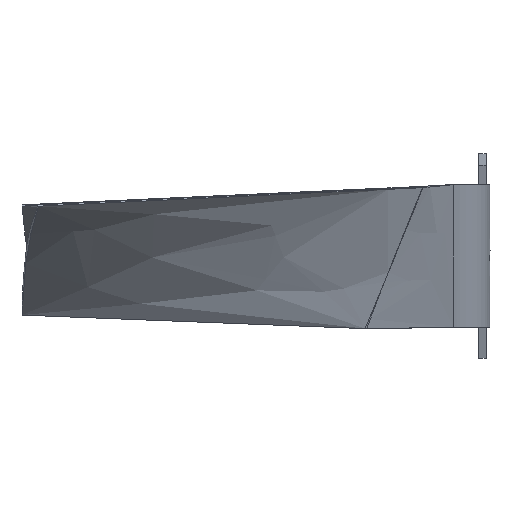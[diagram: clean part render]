
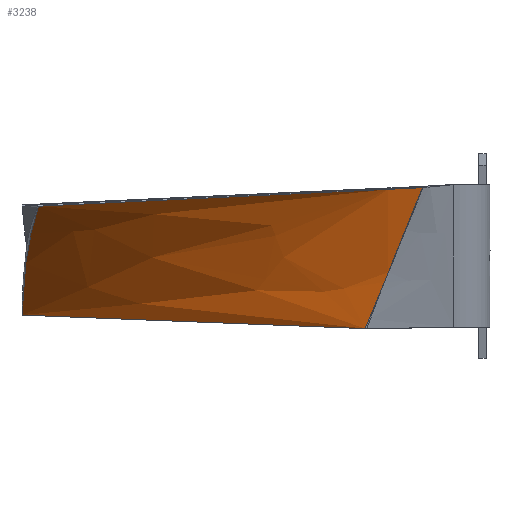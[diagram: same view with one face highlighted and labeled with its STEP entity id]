
A CAD part, left-side view. The second image highlights one B-rep face of the part: STEP entity #3238.
In plain terms, the highlighted free-form (B-spline) face has degree [3, 3] with [7, 4] control points.
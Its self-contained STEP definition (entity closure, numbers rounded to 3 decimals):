
#2422=CARTESIAN_POINT('Vertex',(-41.52,194.62,6.645)) ;
#2426=CARTESIAN_POINT('Control Point',(-19.864,102.701,11.088)) ;
#2427=CARTESIAN_POINT('Control Point',(-22.589,114.27,10.528)) ;
#2428=CARTESIAN_POINT('Control Point',(-25.314,125.84,9.968)) ;
#2429=CARTESIAN_POINT('Control Point',(-31.373,151.552,8.726)) ;
#2430=CARTESIAN_POINT('Control Point',(-34.611,165.296,8.062)) ;
#2431=CARTESIAN_POINT('Control Point',(-37.849,179.04,7.397)) ;
#2432=CARTESIAN_POINT('Control Point',(-39.588,186.423,7.04)) ;
#2433=CARTESIAN_POINT('Control Point',(-40.238,189.185,6.906)) ;
#2434=CARTESIAN_POINT('Control Point',(-40.889,191.947,6.773)) ;
#2435=CARTESIAN_POINT('Control Point',(-41.241,193.446,6.7)) ;
#2436=CARTESIAN_POINT('Control Point',(-41.381,194.033,6.672)) ;
#2437=CARTESIAN_POINT('Control Point',(-41.521,194.62,6.645)) ;
#2438=CARTESIAN_POINT('Vertex',(-19.864,102.701,11.087)) ;
#2442=CARTESIAN_POINT('Control Point',(-17.72,93.635,11.51)) ;
#2443=CARTESIAN_POINT('Control Point',(-17.868,94.261,11.483)) ;
#2444=CARTESIAN_POINT('Control Point',(-18.017,94.886,11.457)) ;
#2445=CARTESIAN_POINT('Control Point',(-18.198,95.635,11.428)) ;
#2446=CARTESIAN_POINT('Control Point',(-18.582,97.261,11.352)) ;
#2447=CARTESIAN_POINT('Control Point',(-18.964,98.887,11.272)) ;
#2448=CARTESIAN_POINT('Control Point',(-19.142,99.637,11.236)) ;
#2449=CARTESIAN_POINT('Control Point',(-19.374,100.625,11.188)) ;
#2450=CARTESIAN_POINT('Control Point',(-19.607,101.613,11.14)) ;
#2451=CARTESIAN_POINT('Control Point',(-19.693,101.976,11.123)) ;
#2452=CARTESIAN_POINT('Control Point',(-19.778,102.338,11.105)) ;
#2453=CARTESIAN_POINT('Control Point',(-19.864,102.701,11.088)) ;
#2454=CARTESIAN_POINT('Vertex',(-17.72,93.635,11.51)) ;
#2525=CARTESIAN_POINT('Vertex',(-9.5,102.637,-10.704)) ;
#2529=CARTESIAN_POINT('Control Point',(-8.672,103.691,-13.336)) ;
#2530=CARTESIAN_POINT('Control Point',(-8.947,103.336,-12.449)) ;
#2531=CARTESIAN_POINT('Control Point',(-9.222,102.986,-11.573)) ;
#2532=CARTESIAN_POINT('Control Point',(-9.5,102.637,-10.704)) ;
#2533=CARTESIAN_POINT('Vertex',(-8.672,103.69,-13.336)) ;
#3040=CARTESIAN_POINT('Control Point',(-8.672,103.69,-13.336)) ;
#3041=CARTESIAN_POINT('Control Point',(-8.675,103.708,-13.331)) ;
#3042=CARTESIAN_POINT('Control Point',(-8.679,103.725,-13.325)) ;
#3043=CARTESIAN_POINT('Vertex',(-8.679,103.725,-13.325)) ;
#3047=CARTESIAN_POINT('Control Point',(-5.137,108.735,-25.55)) ;
#3048=CARTESIAN_POINT('Control Point',(-6.252,107.055,-21.456)) ;
#3049=CARTESIAN_POINT('Control Point',(-7.423,105.374,-17.381)) ;
#3050=CARTESIAN_POINT('Control Point',(-8.679,103.725,-13.325)) ;
#3051=CARTESIAN_POINT('Vertex',(-5.137,108.735,-25.55)) ;
#3129=CARTESIAN_POINT('Control Point',(-5.137,108.735,-25.55)) ;
#3130=CARTESIAN_POINT('Control Point',(-5.043,115.953,-25.265)) ;
#3131=CARTESIAN_POINT('Control Point',(-4.949,123.171,-24.981)) ;
#3132=CARTESIAN_POINT('Control Point',(-4.855,130.389,-24.697)) ;
#3133=CARTESIAN_POINT('Control Point',(-4.667,144.825,-24.128)) ;
#3134=CARTESIAN_POINT('Control Point',(-4.479,159.261,-23.559)) ;
#3135=CARTESIAN_POINT('Control Point',(-4.385,166.479,-23.274)) ;
#3136=CARTESIAN_POINT('Control Point',(-4.244,177.306,-22.848)) ;
#3137=CARTESIAN_POINT('Control Point',(-4.102,188.133,-22.422)) ;
#3138=CARTESIAN_POINT('Control Point',(-4.053,191.743,-22.281)) ;
#3139=CARTESIAN_POINT('Control Point',(-4.011,195.351,-22.135)) ;
#3140=CARTESIAN_POINT('Control Point',(-3.963,198.961,-21.994)) ;
#3141=CARTESIAN_POINT('Vertex',(-3.962,198.961,-21.994)) ;
#3167=CARTESIAN_POINT('Control Point',(-3.962,198.961,-21.994)) ;
#3168=CARTESIAN_POINT('Control Point',(-12.697,198.787,-13.932)) ;
#3169=CARTESIAN_POINT('Control Point',(-22.027,198.089,-6.544)) ;
#3170=CARTESIAN_POINT('Control Point',(-31.705,196.714,0.273)) ;
#3171=CARTESIAN_POINT('Control Point',(-41.52,194.62,6.645)) ;
#3183=CARTESIAN_POINT('Control Point',(-17.716,92.752,11.937)) ;
#3184=CARTESIAN_POINT('Control Point',(-25.838,126.882,10.253)) ;
#3185=CARTESIAN_POINT('Control Point',(-33.959,161.011,8.569)) ;
#3186=CARTESIAN_POINT('Control Point',(-42.081,195.141,6.884)) ;
#3187=CARTESIAN_POINT('Control Point',(-17.654,92.768,11.814)) ;
#3188=CARTESIAN_POINT('Control Point',(-25.75,126.903,10.141)) ;
#3189=CARTESIAN_POINT('Control Point',(-33.846,161.039,8.467)) ;
#3190=CARTESIAN_POINT('Control Point',(-41.943,195.175,6.794)) ;
#3191=CARTESIAN_POINT('Control Point',(-14.646,93.509,5.799)) ;
#3192=CARTESIAN_POINT('Control Point',(-21.502,127.95,4.671)) ;
#3193=CARTESIAN_POINT('Control Point',(-28.358,162.392,3.542)) ;
#3194=CARTESIAN_POINT('Control Point',(-35.213,196.833,2.414)) ;
#3195=CARTESIAN_POINT('Control Point',(-9.581,94.757,-6.589)) ;
#3196=CARTESIAN_POINT('Control Point',(-13.779,129.854,-6.632)) ;
#3197=CARTESIAN_POINT('Control Point',(-17.978,164.95,-6.676)) ;
#3198=CARTESIAN_POINT('Control Point',(-22.176,200.047,-6.72)) ;
#3199=CARTESIAN_POINT('Control Point',(-6.378,95.547,-19.643)) ;
#3200=CARTESIAN_POINT('Control Point',(-7.5,131.401,-18.67)) ;
#3201=CARTESIAN_POINT('Control Point',(-8.623,167.256,-17.697)) ;
#3202=CARTESIAN_POINT('Control Point',(-9.746,203.111,-16.723)) ;
#3203=CARTESIAN_POINT('Control Point',(-5.259,95.823,-26.334)) ;
#3204=CARTESIAN_POINT('Control Point',(-4.719,132.087,-24.887)) ;
#3205=CARTESIAN_POINT('Control Point',(-4.178,168.352,-23.439)) ;
#3206=CARTESIAN_POINT('Control Point',(-3.637,204.616,-21.991)) ;
#3207=CARTESIAN_POINT('Control Point',(-5.237,95.828,-26.472)) ;
#3208=CARTESIAN_POINT('Control Point',(-4.662,132.101,-25.015)) ;
#3209=CARTESIAN_POINT('Control Point',(-4.087,168.374,-23.557)) ;
#3210=CARTESIAN_POINT('Control Point',(-3.512,204.647,-22.099)) ;
#3212=CARTESIAN_POINT('Control Point',(-9.5,102.637,-10.704)) ;
#3213=CARTESIAN_POINT('Control Point',(-9.588,102.536,-10.431)) ;
#3214=CARTESIAN_POINT('Control Point',(-9.676,102.432,-10.158)) ;
#3215=CARTESIAN_POINT('Control Point',(-9.764,102.328,-9.886)) ;
#3216=CARTESIAN_POINT('Control Point',(-10.117,101.911,-8.802)) ;
#3217=CARTESIAN_POINT('Control Point',(-10.475,101.492,-7.72)) ;
#3218=CARTESIAN_POINT('Control Point',(-10.745,101.176,-6.911)) ;
#3219=CARTESIAN_POINT('Control Point',(-11.384,100.434,-5.025)) ;
#3220=CARTESIAN_POINT('Control Point',(-12.039,99.687,-3.148)) ;
#3221=CARTESIAN_POINT('Control Point',(-12.419,99.258,-2.076)) ;
#3222=CARTESIAN_POINT('Control Point',(-13.643,97.892,1.316)) ;
#3223=CARTESIAN_POINT('Control Point',(-14.927,96.524,4.685)) ;
#3224=CARTESIAN_POINT('Control Point',(-15.833,95.578,6.978)) ;
#3225=CARTESIAN_POINT('Control Point',(-16.766,94.618,9.254)) ;
#3226=CARTESIAN_POINT('Control Point',(-17.72,93.635,11.51)) ;
#3229=ORIENTED_EDGE('',*,*,#3143,.F.) ;
#3230=ORIENTED_EDGE('',*,*,#3053,.T.) ;
#3231=ORIENTED_EDGE('',*,*,#3045,.T.) ;
#3232=ORIENTED_EDGE('',*,*,#2535,.T.) ;
#3233=ORIENTED_EDGE('',*,*,#3227,.T.) ;
#3234=ORIENTED_EDGE('',*,*,#2456,.T.) ;
#3235=ORIENTED_EDGE('',*,*,#2440,.T.) ;
#3236=ORIENTED_EDGE('',*,*,#3172,.F.) ;
#3238=ADVANCED_FACE('MANIFOLD_SOLID_BREP #48',(#3237),#3182,.F.) ;
#2425=B_SPLINE_CURVE_WITH_KNOTS('',5,(#2426,#2427,#2428,#2429,#2430,#2431,#2432,#2433,#2434,#2435,#2436,#2437),.UNSPECIFIED.,.F.,.U.,(6,3,3,6),(0.,84.14,99.957,104.229),.UNSPECIFIED.) ;
#2441=B_SPLINE_CURVE_WITH_KNOTS('',5,(#2442,#2443,#2444,#2445,#2446,#2447,#2448,#2449,#2450,#2451,#2452,#2453),.UNSPECIFIED.,.F.,.U.,(6,3,3,6),(0.,4.548,9.096,11.734),.UNSPECIFIED.) ;
#2528=B_SPLINE_CURVE_WITH_KNOTS('',3,(#2529,#2530,#2531,#2532),.UNSPECIFIED.,.F.,.U.,(4,4),(0.,4.125),.UNSPECIFIED.) ;
#3128=B_SPLINE_CURVE_WITH_KNOTS('',5,(#3129,#3130,#3131,#3132,#3133,#3134,#3135,#3136,#3137,#3138,#3139,#3140),.UNSPECIFIED.,.F.,.U.,(6,3,3,6),(0.,51.084,102.167,127.709),.UNSPECIFIED.) ;
#3166=B_SPLINE_CURVE_WITH_KNOTS('',4,(#3167,#3168,#3169,#3170,#3171),.UNSPECIFIED.,.F.,.U.,(5,5),(0.,67.307),.UNSPECIFIED.) ;
#3211=B_SPLINE_CURVE_WITH_KNOTS('',5,(#3212,#3213,#3214,#3215,#3216,#3217,#3218,#3219,#3220,#3221,#3222,#3223,#3224,#3225,#3226),.UNSPECIFIED.,.F.,.U.,(6,3,3,3,6),(0.,2.225,8.868,17.735,37.02),.UNSPECIFIED.) ;
#3182=B_SPLINE_SURFACE_WITH_KNOTS('',3,3,((#3183,#3184,#3185,#3186),(#3187,#3188,#3189,#3190),(#3191,#3192,#3193,#3194),(#3195,#3196,#3197,#3198),(#3199,#3200,#3201,#3202),(#3203,#3204,#3205,#3206),(#3207,#3208,#3209,#3210)),.UNSPECIFIED.,.F.,.F.,.U.,(4,1,1,1,4),(4,4),(0.,0.453,22.009,43.566,44.019),(0.,106.807),.UNSPECIFIED.) ;
#2440=EDGE_CURVE('',#2439,#2423,#2425,.T.) ;
#2456=EDGE_CURVE('',#2455,#2439,#2441,.T.) ;
#2535=EDGE_CURVE('',#2534,#2526,#2528,.T.) ;
#3045=EDGE_CURVE('',#3044,#2534,#3039,.F.) ;
#3053=EDGE_CURVE('',#3052,#3044,#3046,.T.) ;
#3143=EDGE_CURVE('',#3052,#3142,#3128,.T.) ;
#3172=EDGE_CURVE('',#3142,#2423,#3166,.T.) ;
#3227=EDGE_CURVE('',#2526,#2455,#3211,.T.) ;
#3228=EDGE_LOOP('',(#3229,#3230,#3231,#3232,#3233,#3234,#3235,#3236)) ;
#3237=FACE_OUTER_BOUND('',#3228,.T.) ;
#2423=VERTEX_POINT('',#2422) ;
#2439=VERTEX_POINT('',#2438) ;
#2455=VERTEX_POINT('',#2454) ;
#2526=VERTEX_POINT('',#2525) ;
#2534=VERTEX_POINT('',#2533) ;
#3044=VERTEX_POINT('',#3043) ;
#3052=VERTEX_POINT('',#3051) ;
#3142=VERTEX_POINT('',#3141) ;
#3039=(BOUNDED_CURVE()B_SPLINE_CURVE(2,(#3040,#3041,#3042),.UNSPECIFIED.,.F.,.U.)B_SPLINE_CURVE_WITH_KNOTS((3,3),(0.,0.203),.UNSPECIFIED.)CURVE()GEOMETRIC_REPRESENTATION_ITEM()RATIONAL_B_SPLINE_CURVE((1.,1.,1.))REPRESENTATION_ITEM('')) ;
#3046=(BOUNDED_CURVE()B_SPLINE_CURVE(3,(#3047,#3048,#3049,#3050),.UNSPECIFIED.,.F.,.U.)B_SPLINE_CURVE_WITH_KNOTS((4,4),(0.082,13.76),.UNSPECIFIED.)CURVE()GEOMETRIC_REPRESENTATION_ITEM()RATIONAL_B_SPLINE_CURVE((1.,1.,1.,1.))REPRESENTATION_ITEM('')) ;
